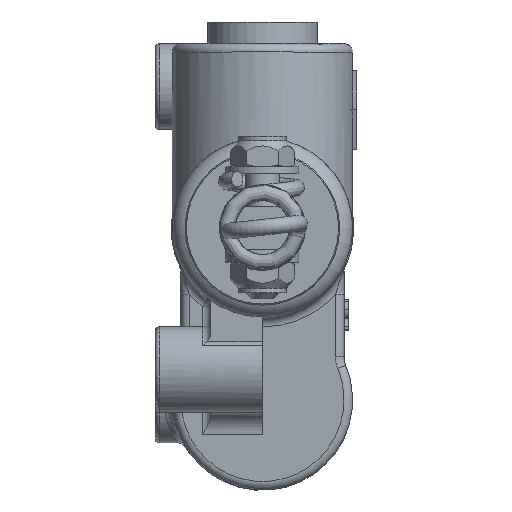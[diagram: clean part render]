
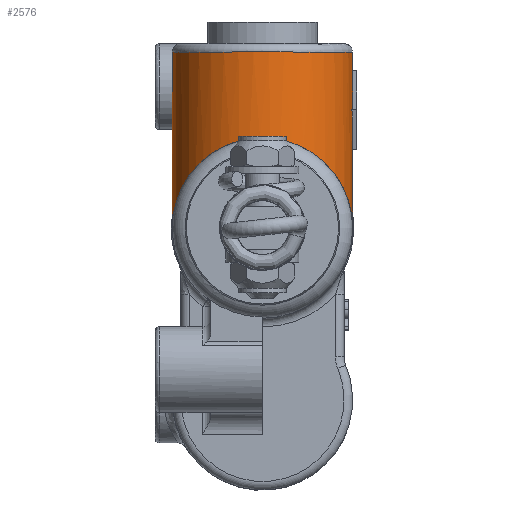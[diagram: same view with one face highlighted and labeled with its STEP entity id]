
A CAD part, top view. The second image highlights one B-rep face of the part: STEP entity #2576.
In plain terms, the highlighted cylindrical face has radius 21 mm (diameter 42 mm), a partial arc.
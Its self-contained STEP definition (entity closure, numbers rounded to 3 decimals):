
#257=CARTESIAN_POINT('',(0.0,41.,18.));
#258=VERTEX_POINT('',#257);
#259=CARTESIAN_POINT('',(-12.783,41.0,22.339));
#260=VERTEX_POINT('',#259);
#268=CARTESIAN_POINT('',(0.0,41.0,39.));
#269=DIRECTION('',(0.0,1.0,0.0));
#270=DIRECTION('',(1.0,0.0,0.0));
#271=AXIS2_PLACEMENT_3D('',#268,#269,#270);
#272=CIRCLE('',#271,21.0);
#273=EDGE_CURVE('',#260,#258,#272,.T.);
#1297=CARTESIAN_POINT('',(0.0,21.0,18.));
#1298=VERTEX_POINT('',#1297);
#1346=CARTESIAN_POINT('',(0.0,21.,18.));
#1347=DIRECTION('',(0.0,1.0,0.0));
#1348=VECTOR('',#1347,20.);
#1349=LINE('',#1346,#1348);
#1350=EDGE_CURVE('',#1298,#258,#1349,.T.);
#1606=CARTESIAN_POINT('',(-12.783,16.661,22.339));
#1607=VERTEX_POINT('',#1606);
#1665=CARTESIAN_POINT('',(-12.783,16.661,22.339));
#1666=DIRECTION('',(0.0,1.0,0.0));
#1667=VECTOR('',#1666,24.339);
#1668=LINE('',#1665,#1667);
#1669=EDGE_CURVE('',#1607,#260,#1668,.T.);
#1714=CARTESIAN_POINT('',(21.0,0.0,39.));
#1715=VERTEX_POINT('',#1714);
#1716=CARTESIAN_POINT('',(0.0,0.0,39.));
#1717=DIRECTION('',(0.0,-0.707,-0.707));
#1718=DIRECTION('',(0.0,-0.707,0.707));
#1719=AXIS2_PLACEMENT_3D('',#1716,#1717,#1718);
#1720=ELLIPSE('',#1719,29.698,21.);
#1721=EDGE_CURVE('',#1298,#1715,#1720,.T.);
#1723=CARTESIAN_POINT('',(-21.0,0.0,39.));
#1724=VERTEX_POINT('',#1723);
#1725=CARTESIAN_POINT('',(0.0,0.0,39.));
#1726=DIRECTION('',(0.0,-0.707,0.707));
#1727=DIRECTION('',(0.0,0.707,0.707));
#1728=AXIS2_PLACEMENT_3D('',#1725,#1726,#1727);
#1729=ELLIPSE('',#1728,29.698,21.);
#1730=EDGE_CURVE('',#1715,#1724,#1729,.T.);
#1732=CARTESIAN_POINT('',(0.0,0.0,39.));
#1733=DIRECTION('',(0.0,-0.707,-0.707));
#1734=DIRECTION('',(0.0,-0.707,0.707));
#1735=AXIS2_PLACEMENT_3D('',#1732,#1733,#1734);
#1736=ELLIPSE('',#1735,29.698,21.);
#1737=EDGE_CURVE('',#1724,#1607,#1736,.T.);
#2500=CARTESIAN_POINT('',(0.0,43.0,39.));
#2501=DIRECTION('',(0.0,-1.0,0.0));
#2502=DIRECTION('',(1.0,0.0,0.0));
#2503=AXIS2_PLACEMENT_3D('',#2500,#2501,#2502);
#2504=CYLINDRICAL_SURFACE('',#2503,21.0);
#2505=ORIENTED_EDGE('',*,*,#1669,.F.);
#2506=ORIENTED_EDGE('',*,*,#1737,.F.);
#2507=ORIENTED_EDGE('',*,*,#1730,.F.);
#2508=ORIENTED_EDGE('',*,*,#1721,.F.);
#2509=ORIENTED_EDGE('',*,*,#1350,.T.);
#2510=ORIENTED_EDGE('',*,*,#273,.F.);
#2511=EDGE_LOOP('',(#2505,#2506,#2507,#2508,#2509,#2510));
#2512=FACE_OUTER_BOUND('',#2511,.T.);
#2513=CARTESIAN_POINT('',(20.989,27.689,38.318));
#2514=VERTEX_POINT('',#2513);
#2515=CARTESIAN_POINT('',(20.851,27.689,36.5));
#2516=VERTEX_POINT('',#2515);
#2517=CARTESIAN_POINT('',(0.0,27.689,39.));
#2518=DIRECTION('',(0.0,1.0,0.0));
#2519=DIRECTION('',(1.0,0.0,0.0));
#2520=AXIS2_PLACEMENT_3D('',#2517,#2518,#2519);
#2521=CIRCLE('',#2520,21.0);
#2522=EDGE_CURVE('',#2514,#2516,#2521,.T.);
#2523=ORIENTED_EDGE('',*,*,#2522,.T.);
#2524=CARTESIAN_POINT('',(21.0,18.358,39.));
#2525=VERTEX_POINT('',#2524);
#2526=CARTESIAN_POINT('',(0.0,18.358,39.));
#2527=DIRECTION('',(0.0,-0.259,-0.966));
#2528=DIRECTION('',(0.0,-0.966,0.259));
#2529=AXIS2_PLACEMENT_3D('',#2526,#2527,#2528);
#2530=ELLIPSE('',#2529,81.138,21.);
#2531=EDGE_CURVE('',#2516,#2525,#2530,.T.);
#2532=ORIENTED_EDGE('',*,*,#2531,.T.);
#2533=CARTESIAN_POINT('',(20.851,27.689,41.5));
#2534=VERTEX_POINT('',#2533);
#2535=CARTESIAN_POINT('',(0.0,18.358,39.));
#2536=DIRECTION('',(0.0,-0.259,0.966));
#2537=DIRECTION('',(0.0,0.966,0.259));
#2538=AXIS2_PLACEMENT_3D('',#2535,#2536,#2537);
#2539=ELLIPSE('',#2538,81.138,21.);
#2540=EDGE_CURVE('',#2525,#2534,#2539,.T.);
#2541=ORIENTED_EDGE('',*,*,#2540,.T.);
#2542=CARTESIAN_POINT('',(20.989,27.689,39.682));
#2543=VERTEX_POINT('',#2542);
#2544=CARTESIAN_POINT('',(0.0,27.689,39.));
#2545=DIRECTION('',(0.0,1.0,0.0));
#2546=DIRECTION('',(1.0,0.0,0.0));
#2547=AXIS2_PLACEMENT_3D('',#2544,#2545,#2546);
#2548=CIRCLE('',#2547,21.0);
#2549=EDGE_CURVE('',#2534,#2543,#2548,.T.);
#2550=ORIENTED_EDGE('',*,*,#2549,.T.);
#2551=CARTESIAN_POINT('',(20.989,36.689,39.682));
#2552=VERTEX_POINT('',#2551);
#2553=CARTESIAN_POINT('',(20.989,27.689,39.682));
#2554=DIRECTION('',(0.0,1.0,0.0));
#2555=VECTOR('',#2554,9.0);
#2556=LINE('',#2553,#2555);
#2557=EDGE_CURVE('',#2543,#2552,#2556,.T.);
#2558=ORIENTED_EDGE('',*,*,#2557,.T.);
#2559=CARTESIAN_POINT('',(20.989,36.689,38.318));
#2560=VERTEX_POINT('',#2559);
#2561=CARTESIAN_POINT('',(0.0,36.689,39.));
#2562=DIRECTION('',(0.0,1.0,0.0));
#2563=DIRECTION('',(1.0,0.0,0.0));
#2564=AXIS2_PLACEMENT_3D('',#2561,#2562,#2563);
#2565=CIRCLE('',#2564,21.0);
#2566=EDGE_CURVE('',#2552,#2560,#2565,.T.);
#2567=ORIENTED_EDGE('',*,*,#2566,.T.);
#2568=CARTESIAN_POINT('',(20.989,36.689,38.318));
#2569=DIRECTION('',(0.0,-1.0,0.0));
#2570=VECTOR('',#2569,9.0);
#2571=LINE('',#2568,#2570);
#2572=EDGE_CURVE('',#2560,#2514,#2571,.T.);
#2573=ORIENTED_EDGE('',*,*,#2572,.T.);
#2574=EDGE_LOOP('',(#2523,#2532,#2541,#2550,#2558,#2567,#2573));
#2575=FACE_BOUND('',#2574,.T.);
#2576=ADVANCED_FACE('',(#2512,#2575),#2504,.T.);
